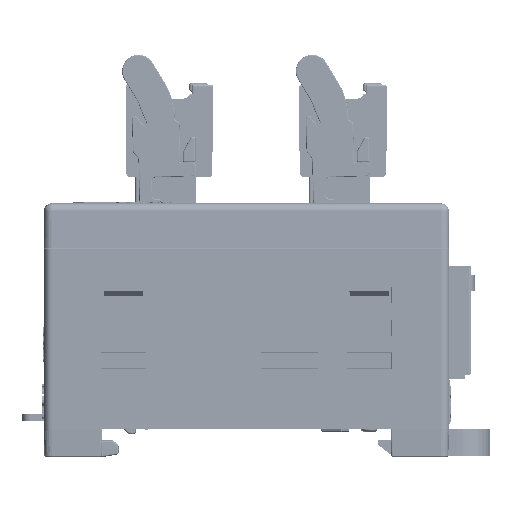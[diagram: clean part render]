
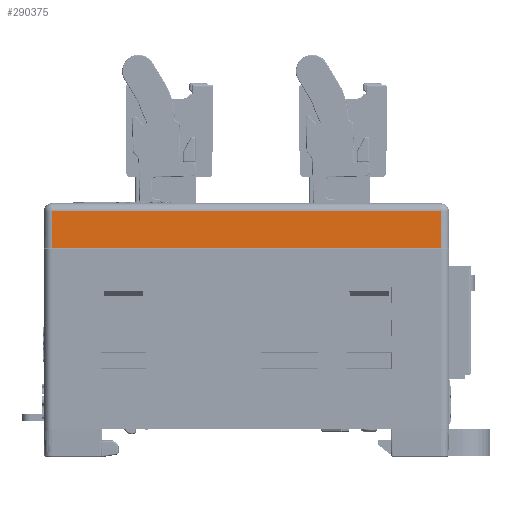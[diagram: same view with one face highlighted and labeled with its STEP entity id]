
A CAD part, left-side view. The second image highlights one B-rep face of the part: STEP entity #290375.
In plain terms, the highlighted planar face has unit normal (-0.999, 0, 0.035).
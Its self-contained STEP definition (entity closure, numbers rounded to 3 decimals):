
#38263=CARTESIAN_POINT('',(-29.75,23.75,25.5));
#38265=CARTESIAN_POINT('',(-29.75,-23.75,25.5));
#38311=DIRECTION('',(0.035,0.,0.999));
#38312=VECTOR('',#38311,4.538);
#38313=CARTESIAN_POINT('',(-29.75,23.75,25.5));
#38314=LINE('',#38313,#38312);
#38414=DIRECTION('',(0.,-1.,0.));
#38415=VECTOR('',#38414,47.5);
#38416=CARTESIAN_POINT('',(-29.592,23.75,30.035));
#38417=LINE('',#38416,#38415);
#38433=DIRECTION('',(-0.035,0.,-0.999));
#38434=VECTOR('',#38433,4.538);
#38435=CARTESIAN_POINT('',(-29.592,-23.75,30.035));
#38436=LINE('',#38435,#38434);
#86088=DIRECTION('',(0.,-1.,0.));
#86089=VECTOR('',#86088,47.5);
#86090=CARTESIAN_POINT('',(-29.75,23.75,25.5));
#86091=LINE('',#86090,#86089);
#97176=VERTEX_POINT('',#38263);
#97193=VERTEX_POINT('',#38265);
#97834=CARTESIAN_POINT('',(-29.592,-23.75,30.035));
#97835=VERTEX_POINT('',#97834);
#97836=CARTESIAN_POINT('',(-29.592,23.75,30.035));
#97837=VERTEX_POINT('',#97836);
#290364=CARTESIAN_POINT('',(-29.671,0.,27.767));
#290365=DIRECTION('',(0.999,0.,-0.035));
#290366=DIRECTION('',(0.,1.,0.));
#290367=AXIS2_PLACEMENT_3D('',#290364,#290365,#290366);
#290368=PLANE('',#290367);
#290369=ORIENTED_EDGE('',*,*,#191409,.T.);
#290370=ORIENTED_EDGE('',*,*,#191451,.T.);
#290371=ORIENTED_EDGE('',*,*,#190879,.F.);
#290372=ORIENTED_EDGE('',*,*,#191022,.T.);
#290373=EDGE_LOOP('',(#290369,#290370,#290371,#290372));
#290374=FACE_OUTER_BOUND('',#290373,.F.);
#290375=ADVANCED_FACE('',(#290374),#290368,.F.);
#190879=EDGE_CURVE('',#97176,#97193,#86091,.T.);
#191022=EDGE_CURVE('',#97176,#97837,#38314,.T.);
#191409=EDGE_CURVE('',#97837,#97835,#38417,.T.);
#191451=EDGE_CURVE('',#97835,#97193,#38436,.T.);
